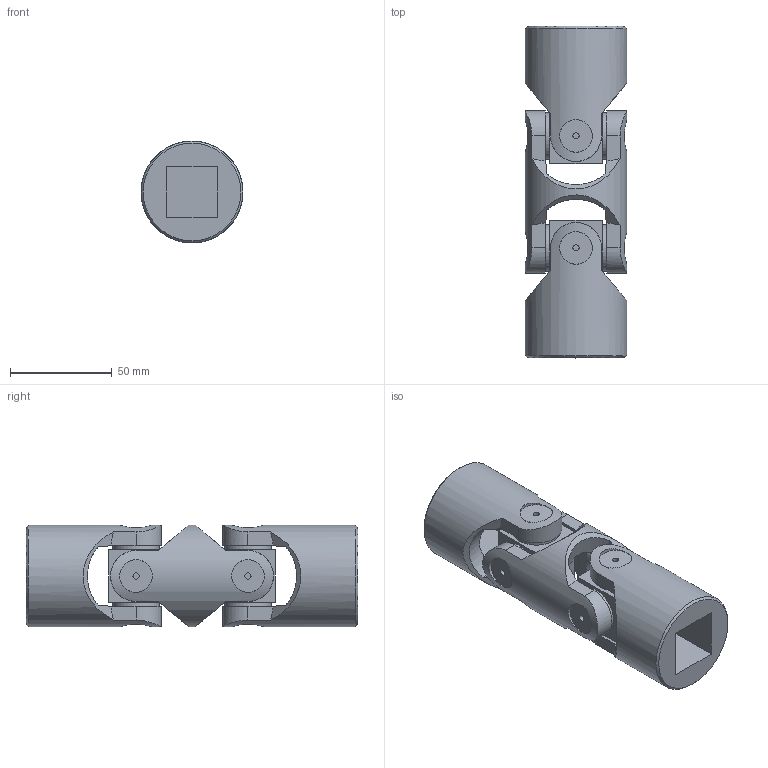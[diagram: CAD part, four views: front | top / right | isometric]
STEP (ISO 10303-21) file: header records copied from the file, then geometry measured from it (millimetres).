
FILE_DESCRIPTION(/* description */ (''),/* implementation_level */ '2;1');
FILE_NAME(/* name */ '\\SRV2016\Societa\Stefano\Disegni 3D\00Catalogo 3D\02Doppi GD-GBD\SG0D252Q.stp',/* time_stamp */ '2021-11-23T15:37:32+01:00',/* author */ ('acquisti'),/* organization */ (''),/* preprocessor_version */ 'ST-DEVELOPER v15.6',/* originating_system */ 'Autodesk Inventor 2015',/* authorisation */ '');
FILE_SCHEMA (('AUTOMOTIVE_DESIGN { 1 0 10303 214 3 1 1 }'));
Length unit declared in the file: millimetre
Products named in the file (4): 5G MOD; 5G SFE; 5G MOQ; Ø50_5GD-00_SG0D2500
Assembly tree (5 placements, depth 2):
  Ø50_5GD-00_SG0D2500
    5G MOD
    5G SFE  x2
    5G MOQ  x2
Bounding box: 50 x 163 x 50 mm (x, y, z)
Volume: 199989.4 mm3; surface area: 52899.1 mm2
Topology: 5 solids, 5 shells, 155 faces, 387 edges, 262 vertices
Faces by surface type: plane 78, cylinder 45, cone 28, torus 4
Full cylindrical faces by diameter (mm): 3 x8, 16 x8, 23 x8, 28 x2, 50 x3
Entity records: 3678 total; most frequent: CARTESIAN_POINT 1335, ORIENTED_EDGE 464, DIRECTION 438, EDGE_CURVE 232, AXIS2_PLACEMENT_3D 187, VERTEX_POINT 174, EDGE_LOOP 146, FACE_OUTER_BOUND 103
